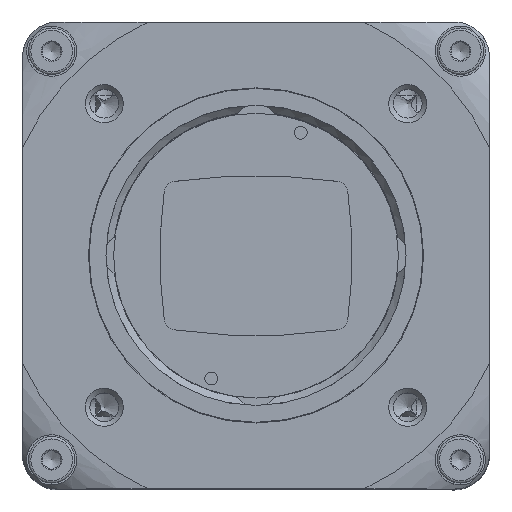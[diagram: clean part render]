
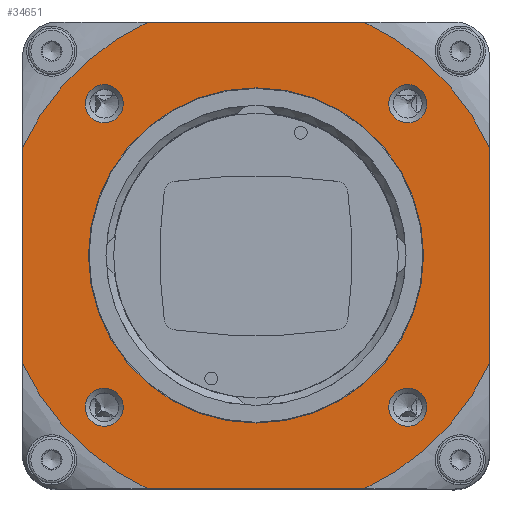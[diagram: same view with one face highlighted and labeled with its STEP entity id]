
A CAD part, top view. The second image highlights one B-rep face of the part: STEP entity #34651.
In plain terms, the highlighted planar face has unit normal (0, 0, 1).
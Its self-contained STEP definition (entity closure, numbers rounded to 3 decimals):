
#771=PLANE('',#36473);
#1590=LINE('',#47079,#3010);
#1594=LINE('',#47104,#3014);
#1598=LINE('',#47129,#3018);
#1602=LINE('',#47154,#3022);
#3010=VECTOR('',#39514,1000.);
#3014=VECTOR('',#39524,1000.);
#3018=VECTOR('',#39534,1000.);
#3022=VECTOR('',#39544,1000.);
#4625=ORIENTED_EDGE('',*,*,#10967,.T.);
#4626=ORIENTED_EDGE('',*,*,#10968,.T.);
#4627=ORIENTED_EDGE('',*,*,#10969,.T.);
#4628=ORIENTED_EDGE('',*,*,#10970,.T.);
#4629=ORIENTED_EDGE('',*,*,#10870,.T.);
#4630=ORIENTED_EDGE('',*,*,#10897,.F.);
#4631=ORIENTED_EDGE('',*,*,#10971,.T.);
#4632=ORIENTED_EDGE('',*,*,#10889,.F.);
#4633=ORIENTED_EDGE('',*,*,#10972,.T.);
#4634=ORIENTED_EDGE('',*,*,#10881,.F.);
#4635=ORIENTED_EDGE('',*,*,#10973,.T.);
#4636=ORIENTED_EDGE('',*,*,#10873,.F.);
#4637=ORIENTED_EDGE('',*,*,#10974,.T.);
#10870=EDGE_CURVE('',#14047,#14047,#16391,.T.);
#10873=EDGE_CURVE('',#14050,#14051,#1590,.T.);
#10881=EDGE_CURVE('',#14058,#14059,#1594,.T.);
#10889=EDGE_CURVE('',#14066,#14067,#1598,.T.);
#10897=EDGE_CURVE('',#14074,#14075,#1602,.T.);
#10967=EDGE_CURVE('',#14132,#14132,#16440,.T.);
#10968=EDGE_CURVE('',#14133,#14133,#16441,.T.);
#10969=EDGE_CURVE('',#14134,#14134,#16442,.T.);
#10970=EDGE_CURVE('',#14135,#14135,#16443,.T.);
#10971=EDGE_CURVE('',#14074,#14067,#16444,.T.);
#10972=EDGE_CURVE('',#14066,#14059,#16445,.T.);
#10973=EDGE_CURVE('',#14058,#14051,#16446,.T.);
#10974=EDGE_CURVE('',#14050,#14075,#16447,.T.);
#14047=VERTEX_POINT('',#47073);
#14050=VERTEX_POINT('',#47080);
#14051=VERTEX_POINT('',#47081);
#14058=VERTEX_POINT('',#47105);
#14059=VERTEX_POINT('',#47106);
#14066=VERTEX_POINT('',#47130);
#14067=VERTEX_POINT('',#47131);
#14074=VERTEX_POINT('',#47155);
#14075=VERTEX_POINT('',#47156);
#14132=VERTEX_POINT('',#47375);
#14133=VERTEX_POINT('',#47377);
#14134=VERTEX_POINT('',#47379);
#14135=VERTEX_POINT('',#47381);
#16391=CIRCLE('',#36393,14.35);
#16440=CIRCLE('',#36474,1.63);
#16441=CIRCLE('',#36475,1.63);
#16442=CIRCLE('',#36476,1.63);
#16443=CIRCLE('',#36477,1.63);
#16444=CIRCLE('',#36478,22.031);
#16445=CIRCLE('',#36479,22.031);
#16446=CIRCLE('',#36480,22.031);
#16447=CIRCLE('',#36481,22.031);
#17789=EDGE_LOOP('',(#4625));
#17790=EDGE_LOOP('',(#4626));
#17791=EDGE_LOOP('',(#4627));
#17792=EDGE_LOOP('',(#4628));
#17793=EDGE_LOOP('',(#4629));
#17794=EDGE_LOOP('',(#4630,#4631,#4632,#4633,#4634,#4635,#4636,#4637));
#20345=FACE_BOUND('',#17789,.T.);
#20346=FACE_BOUND('',#17790,.T.);
#20347=FACE_BOUND('',#17791,.T.);
#20348=FACE_BOUND('',#17792,.T.);
#20349=FACE_BOUND('',#17793,.T.);
#20350=FACE_BOUND('',#17794,.T.);
#34651=ADVANCED_FACE('',(#20345,#20346,#20347,#20348,#20349,#20350),#771,
 .F.);
#36393=AXIS2_PLACEMENT_3D('',#47072,#39506,#39507);
#36473=AXIS2_PLACEMENT_3D('',#47373,#39690,#39691);
#36474=AXIS2_PLACEMENT_3D('',#47374,#39692,#39693);
#36475=AXIS2_PLACEMENT_3D('',#47376,#39694,#39695);
#36476=AXIS2_PLACEMENT_3D('',#47378,#39696,#39697);
#36477=AXIS2_PLACEMENT_3D('',#47380,#39698,#39699);
#36478=AXIS2_PLACEMENT_3D('',#47382,#39700,#39701);
#36479=AXIS2_PLACEMENT_3D('',#47383,#39702,#39703);
#36480=AXIS2_PLACEMENT_3D('',#47384,#39704,#39705);
#36481=AXIS2_PLACEMENT_3D('',#47385,#39706,#39707);
#39506=DIRECTION('',(0.,0.,-1.));
#39507=DIRECTION('',(1.,0.,0.));
#39514=DIRECTION('',(0.,-1.,0.));
#39524=DIRECTION('',(-1.,0.,0.));
#39534=DIRECTION('',(0.,1.,0.));
#39544=DIRECTION('',(1.,0.,0.));
#39690=DIRECTION('',(0.,0.,-1.));
#39691=DIRECTION('',(-1.,0.,0.));
#39692=DIRECTION('',(0.,0.,-1.));
#39693=DIRECTION('',(-1.,0.,0.));
#39694=DIRECTION('',(0.,0.,-1.));
#39695=DIRECTION('',(-1.,0.,0.));
#39696=DIRECTION('',(0.,0.,-1.));
#39697=DIRECTION('',(-1.,0.,0.));
#39698=DIRECTION('',(0.,0.,-1.));
#39699=DIRECTION('',(-1.,0.,0.));
#39700=DIRECTION('',(0.,0.,1.));
#39701=DIRECTION('',(1.,0.,0.));
#39702=DIRECTION('',(0.,0.,1.));
#39703=DIRECTION('',(1.,0.,0.));
#39704=DIRECTION('',(0.,0.,1.));
#39705=DIRECTION('',(1.,0.,0.));
#39706=DIRECTION('',(0.,0.,1.));
#39707=DIRECTION('',(1.,0.,0.));
#47072=CARTESIAN_POINT('',(0.,0.,12.3));
#47073=CARTESIAN_POINT('',(14.35,0.,12.3));
#47079=CARTESIAN_POINT('',(20.,20.,12.3));
#47080=CARTESIAN_POINT('',(20.,9.238,12.3));
#47081=CARTESIAN_POINT('',(20.,-9.238,12.3));
#47104=CARTESIAN_POINT('',(20.,-20.,12.3));
#47105=CARTESIAN_POINT('',(9.238,-20.,12.3));
#47106=CARTESIAN_POINT('',(-9.238,-20.,12.3));
#47129=CARTESIAN_POINT('',(-20.,-20.,12.3));
#47130=CARTESIAN_POINT('',(-20.,-9.238,12.3));
#47131=CARTESIAN_POINT('',(-20.,9.238,12.3));
#47154=CARTESIAN_POINT('',(-20.,20.,12.3));
#47155=CARTESIAN_POINT('',(-9.238,20.,12.3));
#47156=CARTESIAN_POINT('',(9.238,20.,12.3));
#47373=CARTESIAN_POINT('',(0.,0.,12.3));
#47374=CARTESIAN_POINT('',(13.,-13.,12.3));
#47375=CARTESIAN_POINT('',(11.371,-13.,12.3));
#47376=CARTESIAN_POINT('',(-13.,-13.,12.3));
#47377=CARTESIAN_POINT('',(-14.63,-13.,12.3));
#47378=CARTESIAN_POINT('',(-13.,13.,12.3));
#47379=CARTESIAN_POINT('',(-14.63,13.,12.3));
#47380=CARTESIAN_POINT('',(13.,13.,12.3));
#47381=CARTESIAN_POINT('',(11.371,13.,12.3));
#47382=CARTESIAN_POINT('',(0.,0.,12.3));
#47383=CARTESIAN_POINT('',(0.,0.,12.3));
#47384=CARTESIAN_POINT('',(0.,0.,12.3));
#47385=CARTESIAN_POINT('',(0.,0.,12.3));
